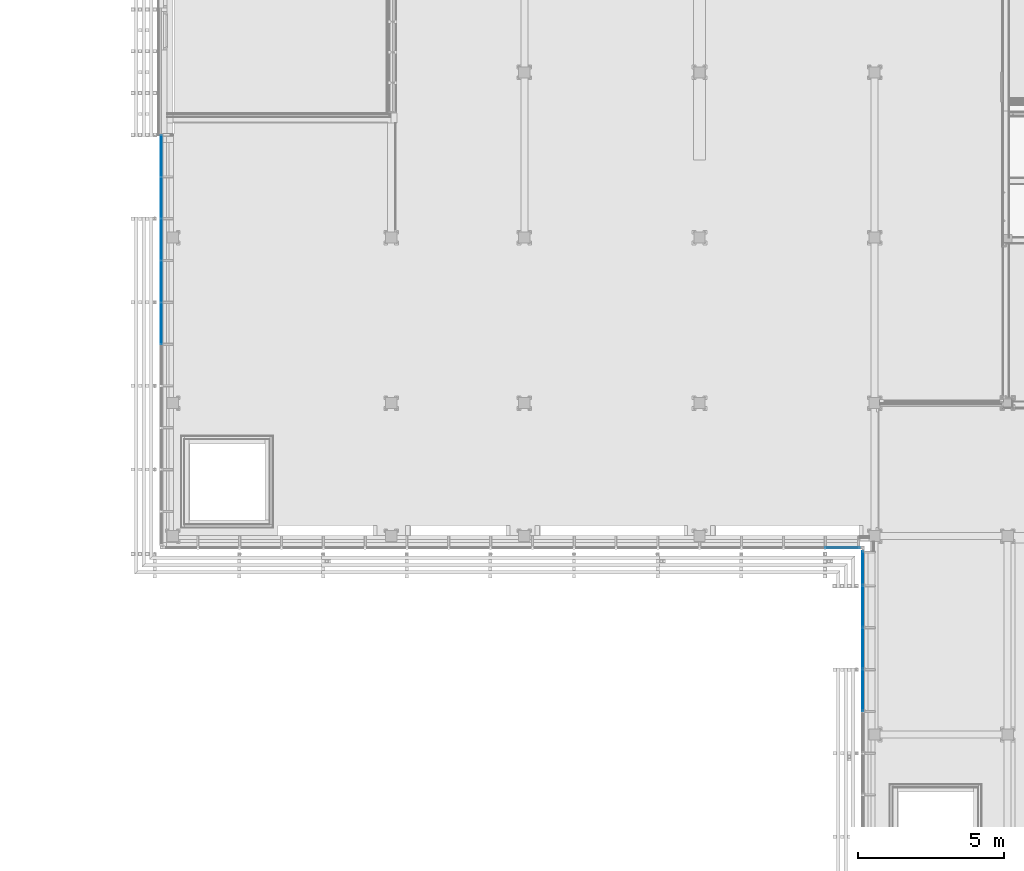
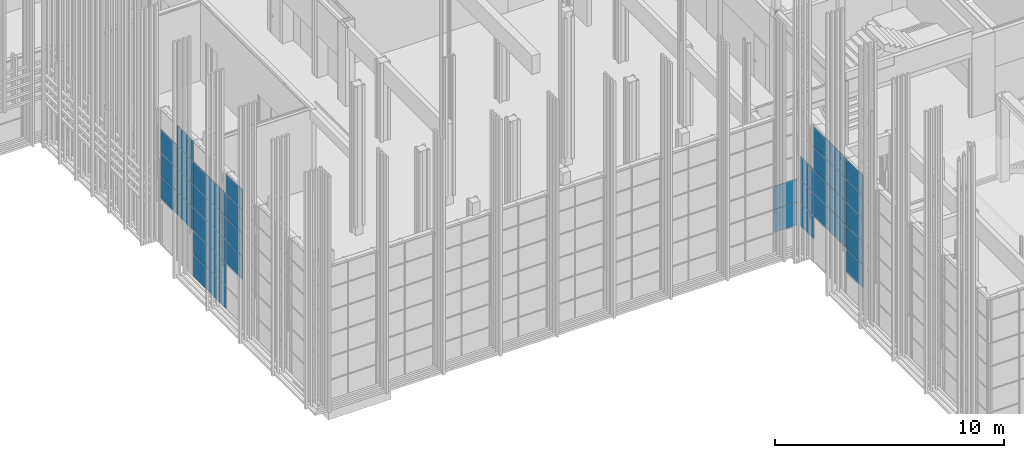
# One storey, part 54 of 260: 39 plates, 1 element without a shape of its own.
"""IFC2X3 building model written with IfcOpenShell, lengths in millimetres."""

from ifc_helpers import new_model, entity, si_unit, converted_unit, derived_unit, money_unit, direction, frame, origin_with_axes, place, context, subcontext, project, spatial, faceted_brep, source, transform, mapped, material, type_object, element, aggregate, save


model = new_model("IFC2X3")

# Units and contexts
model_context = context("Model", 3, precision=0.01, world=origin_with_axes(), true_north=direction((0.0, 1.0)))
body_context = subcontext(model_context, "Body", "Model", "MODEL_VIEW")
ifc_project = project(units=[si_unit("LENGTHUNIT", "METRE", prefix="MILLI"), si_unit("AREAUNIT", "SQUARE_METRE"), si_unit("VOLUMEUNIT", "CUBIC_METRE"), converted_unit("PLANEANGLEUNIT", "DEGREE", entity("IfcPlaneAngleMeasure", 0.0174532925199), si_unit("PLANEANGLEUNIT", "RADIAN"), dimensions=[0, 0, 0, 0, 0, 0, 0]), money_unit("EUR"), converted_unit("TIMEUNIT", "Year", entity("IfcTimeMeasure", 31556926.0), si_unit("TIMEUNIT", "SECOND"), dimensions=[0, 0, 1, 0, 0, 0, 0]), si_unit("MASSUNIT", "GRAM", prefix="KILO"), si_unit("THERMODYNAMICTEMPERATUREUNIT", "DEGREE_CELSIUS"), si_unit("LUMINOUSINTENSITYUNIT", "LUMEN"), si_unit("ENERGYUNIT", "JOULE", prefix="MEGA"), derived_unit("THERMALCONDUCTANCEUNIT", [(si_unit("POWERUNIT", "WATT"), 1), (si_unit("LENGTHUNIT", "METRE"), -1), (si_unit("THERMODYNAMICTEMPERATUREUNIT", "KELVIN"), -1)]), derived_unit("SPECIFICHEATCAPACITYUNIT", [(si_unit("ENERGYUNIT", "JOULE"), 1), (si_unit("MASSUNIT", "GRAM", prefix="KILO"), -1), (si_unit("THERMODYNAMICTEMPERATUREUNIT", "KELVIN"), -1)]), derived_unit("MASSDENSITYUNIT", [(si_unit("MASSUNIT", "GRAM", prefix="KILO"), 1), (si_unit("VOLUMEUNIT", "CUBIC_METRE"), -1)])], contexts=[model_context])

# Site, building, storey
site_placement = place(None, origin_with_axes())
site = spatial("IfcSite", under=ifc_project, at=site_placement, Name="Kolde pst 67a", CompositionType="ELEMENT")
building_placement = place(site_placement, origin_with_axes())
building = spatial("IfcBuilding", under=site, at=building_placement, Name="Riigigümnaasium", CompositionType="ELEMENT")
storey_placement = place(building_placement, origin_with_axes())
storey = spatial("IfcBuildingStorey", under=building, at=storey_placement, Name="1. korrus", CompositionType="ELEMENT", Elevation=0.0)

# Curtain wall, plates
curtain_wall_type = type_object("IfcCurtainWallType", Name="Curtain Wall Type", PredefinedType="NOTDEFINED")
curtain_wall_placement = place(storey_placement, frame((47829.9854655, 8727.77020058, -0.000749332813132), z_axis=(0.0, 0.0, 1.0), x_axis=(1.0, 0.0, 0.0)))
curtain_wall = element("IfcCurtainWall", 1, at=curtain_wall_placement, inside=storey, type_object=curtain_wall_type, Name="KLAASFASSAAD")
ifc_material = material(Name="_KLAAS - kirgas")
plate_type_1 = type_object("IfcPlateType", Name="Main Panel 72 x 1220 x 33", PredefinedType="NOTDEFINED")
shared_shape_1 = source(origin_with_axes(), body_context, "Body", "Brep", [
    faceted_brep([(-2777.75198662, 1225.00000656, -16.5), (-2777.75198662, 1225.00000656, 16.5), (-1430.0, 1225.00000656, 16.5), (-1430.0, 1225.00000656, -16.5), (-2777.75198662, 4.99999672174, -16.5), (-2777.75198662, 4.99999672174, 16.5), (-1430.0, 4.99999672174, 16.5), (-1357.75198007, 4.99999672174, 16.5), (-1357.75198007, 1225.00000656, 16.5), (-1357.75198007, 1225.00000656, -16.5), (-1357.75198007, 4.99999672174, -16.5), (-1430.0, 4.99999672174, -16.5)], [[[0, 1, 2, 3]], [[4, 5, 1, 0]], [[1, 5, 6, 7, 8, 2]], [[3, 2, 8, 9]], [[0, 3, 9, 10, 11, 4]], [[11, 6, 5, 4]], [[10, 7, 6, 11]], [[9, 8, 7, 10]]]),
])
plate_1_placement = place(curtain_wall_placement, frame((-9.12638142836e-06, 10011.2070736, 1845.00074933), z_axis=(0.0, 0.0, 1.0), x_axis=(9.11611423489e-10, -1.0, 0.0)))
plate_1 = element("IfcPlate", 2, at=plate_1_placement, type_object=plate_type_1, material=ifc_material, Name="RF PANEEL PEAMINE-010", context=body_context, shape_type="MappedRepresentation", body=[
    mapped(shared_shape_1, transform((1855.1679889, 0.0, -615.0), x_axis=(1.0, 0.0, 0.0), y_axis=(0.0, 0.0, 1.0), z_axis=(0.0, -1.0, 0.0))),
])
plate_2_placement = place(curtain_wall_placement, frame((-9.12638142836e-06, 10011.2070736, 3075.00074933), z_axis=(0.0, 0.0, 1.0), x_axis=(9.11611423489e-10, -1.0, 0.0)))
plate_2 = element("IfcPlate", 3, at=plate_2_placement, type_object=plate_type_1, material=ifc_material, Name="RF PANEEL PEAMINE-010", context=body_context, shape_type="MappedRepresentation", body=[
    mapped(shared_shape_1, transform((1855.1679889, 0.0, -615.0), x_axis=(1.0, 0.0, 0.0), y_axis=(0.0, 0.0, 1.0), z_axis=(0.0, -1.0, 0.0))),
])
plate_3_placement = place(curtain_wall_placement, frame((-9.12638142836e-06, 10011.2070736, 5535.00074933), z_axis=(0.0, 0.0, 1.0), x_axis=(9.11611423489e-10, -1.0, 0.0)))
plate_3 = element("IfcPlate", 4, at=plate_3_placement, type_object=plate_type_1, material=ifc_material, Name="RF PANEEL PEAMINE-059", context=body_context, shape_type="MappedRepresentation", body=[
    mapped(shared_shape_1, transform((1855.1679889, 0.0, -615.0), x_axis=(1.0, 0.0, 0.0), y_axis=(0.0, 0.0, 1.0), z_axis=(0.0, -1.0, 0.0))),
])
plate_4_placement = place(curtain_wall_placement, frame((-9.12638142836e-06, 10011.2070736, 4305.00074933), z_axis=(0.0, 0.0, 1.0), x_axis=(9.11611423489e-10, -1.0, 0.0)))
plate_4 = element("IfcPlate", 5, at=plate_4_placement, type_object=plate_type_1, material=ifc_material, Name="RF PANEEL PEAMINE-040", context=body_context, shape_type="MappedRepresentation", body=[
    mapped(shared_shape_1, transform((1855.1679889, 0.0, -615.0), x_axis=(1.0, 0.0, 0.0), y_axis=(0.0, 0.0, 1.0), z_axis=(0.0, -1.0, 0.0))),
])
shared_shape_2 = source(origin_with_axes(), body_context, "Body", "Brep", [
    faceted_brep([(-2777.75197336, 1224.99999549, -16.5), (-2777.75197336, 1224.99999549, 16.5), (-1429.999994, 1224.99999549, 16.5), (-1429.999994, 1224.99999549, -16.5), (-2777.75197336, 5.00000998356, -16.5), (-2777.75197336, 5.00000998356, 16.5), (-1429.999994, 5.00000998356, 16.5), (-1357.76038895, 5.00000998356, 16.5), (-1357.76038895, 1224.99999549, 16.5), (-1357.76038895, 1224.99999549, -16.5), (-1357.76038895, 5.00000998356, -16.5), (-1429.999994, 5.00000998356, -16.5)], [[[0, 1, 2, 3]], [[4, 5, 1, 0]], [[1, 5, 6, 7, 8, 2]], [[3, 2, 8, 9]], [[0, 3, 9, 10, 11, 4]], [[11, 6, 5, 4]], [[10, 7, 6, 11]], [[9, 8, 7, 10]]]),
])
plate_5_placement = place(curtain_wall_placement, frame((-1.1733597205e-05, 12871.2098792, 3075.00074933), z_axis=(0.0, 0.0, 1.0), x_axis=(9.1161639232e-10, -1.0, 0.0)))
plate_5 = element("IfcPlate", 6, at=plate_5_placement, type_object=plate_type_1, material=ifc_material, Name="RF PANEEL PEAMINE-010", context=body_context, shape_type="MappedRepresentation", body=[
    mapped(shared_shape_2, transform((1855.17079454, 0.0, -615.0), x_axis=(1.0, 0.0, 0.0), y_axis=(0.0, 0.0, 1.0), z_axis=(0.0, -1.0, 0.0))),
])
plate_6_placement = place(curtain_wall_placement, frame((-1.1733597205e-05, 12871.2098757, 5535.00074933), z_axis=(0.0, 0.0, 1.0), x_axis=(9.1161639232e-10, -1.0, 0.0)))
plate_6 = element("IfcPlate", 7, at=plate_6_placement, type_object=plate_type_1, material=ifc_material, Name="RF PANEEL PEAMINE-063", context=body_context, shape_type="MappedRepresentation", body=[
    mapped(shared_shape_2, transform((1855.17079099, 0.0, -615.0), x_axis=(1.0, 0.0, 0.0), y_axis=(0.0, 0.0, 1.0), z_axis=(0.0, -1.0, 0.0))),
])
plate_7_placement = place(curtain_wall_placement, frame((-1.1733597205e-05, 12871.2098792, 4305.00074933), z_axis=(0.0, 0.0, 1.0), x_axis=(9.1161639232e-10, -1.0, 0.0)))
plate_7 = element("IfcPlate", 8, at=plate_7_placement, type_object=plate_type_1, material=ifc_material, Name="RF PANEEL PEAMINE-042", context=body_context, shape_type="MappedRepresentation", body=[
    mapped(shared_shape_2, transform((1855.17079454, 0.0, -615.0), x_axis=(1.0, 0.0, 0.0), y_axis=(0.0, 0.0, 1.0), z_axis=(0.0, -1.0, 0.0))),
])
shared_shape_3 = source(origin_with_axes(), body_context, "Body", "Brep", [
    faceted_brep([(-2777.76037427, 1224.99999929, -16.5), (-2777.76037427, 1224.99999929, 16.5), (-1430.00000489, 1224.99999929, 16.5), (-1430.00000489, 1224.99999929, -16.5), (-2777.76037427, 5.00000469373, -16.5), (-2777.76037427, 5.00000469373, 16.5), (-1430.00000489, 5.00000469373, 16.5), (-1357.75200935, 5.00000469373, 16.5), (-1357.75200935, 1224.99999929, 16.5), (-1357.75200935, 1224.99999929, -16.5), (-1357.75200935, 5.00000469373, -16.5), (-1430.00000489, 5.00000469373, -16.5)], [[[0, 1, 2, 3]], [[4, 5, 1, 0]], [[1, 5, 6, 7, 8, 2]], [[3, 2, 8, 9]], [[0, 3, 9, 10, 11, 4]], [[11, 6, 5, 4]], [[10, 7, 6, 11]], [[9, 8, 7, 10]]]),
])
plate_8_placement = place(curtain_wall_placement, frame((-1.04299928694e-05, 11441.2098721, 4305.00074933), z_axis=(0.0, 0.0, 1.0), x_axis=(9.1161639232e-10, -1.0, 0.0)))
plate_8 = element("IfcPlate", 9, at=plate_8_placement, type_object=plate_type_1, material=ifc_material, Name="RF PANEEL PEAMINE-041", context=body_context, shape_type="MappedRepresentation", body=[
    mapped(shared_shape_3, transform((1855.17078744, 0.0, -615.0), x_axis=(1.0, 0.0, 0.0), y_axis=(0.0, 0.0, 1.0), z_axis=(0.0, -1.0, 0.0))),
])
plate_9_placement = place(curtain_wall_placement, frame((-1.04299928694e-05, 11441.2098721, 3075.00074933), z_axis=(0.0, 0.0, 1.0), x_axis=(9.1161639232e-10, -1.0, 0.0)))
plate_9 = element("IfcPlate", 10, at=plate_9_placement, type_object=plate_type_1, material=ifc_material, Name="RF PANEEL PEAMINE-010", context=body_context, shape_type="MappedRepresentation", body=[
    mapped(shared_shape_3, transform((1855.17078744, 0.0, -615.0), x_axis=(1.0, 0.0, 0.0), y_axis=(0.0, 0.0, 1.0), z_axis=(0.0, -1.0, 0.0))),
])
plate_10_placement = place(curtain_wall_placement, frame((-1.04299928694e-05, 11441.2098721, 5535.00074933), z_axis=(0.0, 0.0, 1.0), x_axis=(9.1161639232e-10, -1.0, 0.0)))
plate_10 = element("IfcPlate", 11, at=plate_10_placement, type_object=plate_type_1, material=ifc_material, Name="RF PANEEL PEAMINE-061", context=body_context, shape_type="MappedRepresentation", body=[
    mapped(shared_shape_3, transform((1855.17078744, 0.0, -615.0), x_axis=(1.0, 0.0, 0.0), y_axis=(0.0, 0.0, 1.0), z_axis=(0.0, -1.0, 0.0))),
])
plate_type_2 = type_object("IfcPlateType", Name="Main Panel 72 x 1075 x 33", PredefinedType="NOTDEFINED")
shared_shape_4 = source(origin_with_axes(), body_context, "Body", "Brep", [
    faceted_brep([(-2777.76038635, 1079.99918528, -16.5), (-2777.76038635, 1079.99918528, 16.5), (-1430.0000067, 1079.99918528, 16.5), (-1430.0000067, 1079.99918528, -16.5), (-2777.76038635, 5.00000481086, -16.5), (-2777.76038635, 5.00000481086, 16.5), (-1430.0000067, 5.00000481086, 16.5), (-1357.75198816, 5.00000481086, 16.5), (-1357.75198816, 1079.99918528, 16.5), (-1357.75198816, 1079.99918528, -16.5), (-1357.75198816, 5.00000481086, -16.5), (-1430.0000067, 5.00000481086, -16.5)], [[[0, 1, 2, 3]], [[4, 5, 1, 0]], [[1, 5, 6, 7, 8, 2]], [[3, 2, 8, 9]], [[0, 3, 9, 10, 11, 4]], [[11, 6, 5, 4]], [[10, 7, 6, 11]], [[9, 8, 7, 10]]]),
])
plate_11_placement = place(curtain_wall_placement, frame((-1.04784447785e-05, 11494.3562233, 6841.25023072), z_axis=(0.0, 0.0, 1.0), x_axis=(9.1161639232e-10, -1.0, 0.0)))
plate_11 = element("IfcPlate", 12, at=plate_11_placement, type_object=plate_type_2, material=ifc_material, Name="RF PANEEL PEAMINE-030", context=body_context, shape_type="MappedRepresentation", body=[
    mapped(shared_shape_4, transform((1908.31713865, 0.0, -691.249481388), x_axis=(1.0, 0.0, 0.0), y_axis=(0.0, 0.0, 1.0), z_axis=(0.0, -1.0, 0.0))),
])
shared_shape_5 = source(origin_with_axes(), body_context, "Body", "Brep", [
    faceted_brep([(-2546.19129792, 1225.00000562, -16.5), (-2546.19129792, 1225.00000562, 16.5), (-1430.00000402, 1225.00000562, 16.5), (-1430.00000402, 1225.00000562, -16.5), (-2546.19129792, 5.00000565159, -16.5), (-2546.19129792, 5.00000565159, 16.5), (-1430.00000402, 5.00000565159, 16.5), (-1357.75201031, 5.00000565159, 16.5), (-1357.75201031, 1225.00000562, 16.5), (-1357.75201031, 1225.00000562, -16.5), (-1357.75201031, 5.00000565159, -16.5), (-1430.00000402, 5.00000565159, -16.5)], [[[0, 1, 2, 3]], [[4, 5, 1, 0]], [[1, 5, 6, 7, 8, 2]], [[3, 2, 8, 9]], [[0, 3, 9, 10, 11, 4]], [[11, 6, 5, 4]], [[10, 7, 6, 11]], [[9, 8, 7, 10]]]),
])
plate_12_placement = place(curtain_wall_placement, frame((-1.29987469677e-05, 14259.0200396, 4305.00074933), z_axis=(0.0, 0.0, 1.0), x_axis=(9.1161639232e-10, -1.0, 0.0)))
plate_12 = element("IfcPlate", 13, at=plate_12_placement, type_object=plate_type_1, material=ifc_material, Name="RF PANEEL PEAMINE-045", context=body_context, shape_type="MappedRepresentation", body=[
    mapped(shared_shape_5, transform((1812.98095492, 0.0, -615.0), x_axis=(1.0, 0.0, 0.0), y_axis=(0.0, 0.0, 1.0), z_axis=(0.0, -1.0, 0.0))),
])
plate_13_placement = place(curtain_wall_placement, frame((-1.29987469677e-05, 14259.0200396, 3075.00074933), z_axis=(0.0, 0.0, 1.0), x_axis=(9.1161639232e-10, -1.0, 0.0)))
plate_13 = element("IfcPlate", 14, at=plate_13_placement, type_object=plate_type_1, material=ifc_material, Name="RF PANEEL PEAMINE-010", context=body_context, shape_type="MappedRepresentation", body=[
    mapped(shared_shape_5, transform((1812.98095492, 0.0, -615.0), x_axis=(1.0, 0.0, 0.0), y_axis=(0.0, 0.0, 1.0), z_axis=(0.0, -1.0, 0.0))),
])
plate_14_placement = place(curtain_wall_placement, frame((-1.29987469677e-05, 14259.0200396, 1845.00074933), z_axis=(0.0, 0.0, 1.0), x_axis=(9.1161639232e-10, -1.0, 0.0)))
plate_14 = element("IfcPlate", 15, at=plate_14_placement, type_object=plate_type_1, material=ifc_material, Name="RF PANEEL PEAMINE-010", context=body_context, shape_type="MappedRepresentation", body=[
    mapped(shared_shape_5, transform((1812.98095492, 0.0, -615.0), x_axis=(1.0, 0.0, 0.0), y_axis=(0.0, 0.0, 1.0), z_axis=(0.0, -1.0, 0.0))),
])
plate_type_3 = type_object("IfcPlateType", Name="Main Panel 1177 x 1220 x 33", PredefinedType="NOTDEFINED")
shared_shape_6 = source(origin_with_axes(), body_context, "Body", "Brep", [
    faceted_brep([(-1287.41504236, 1225.00000474, -16.5), (-1287.41504236, 1225.00000474, 16.5), (-110.00000695, 1225.00000474, 16.5), (-110.00000695, 1225.00000474, -16.5), (-1287.41504236, 5.00000819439, -16.5), (-1287.41504236, 5.00000819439, 16.5), (-110.00000695, 5.00000819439, 16.5), (-110.00000695, 5.00000819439, -16.5)], [[[0, 1, 2, 3]], [[4, 5, 1, 0]], [[1, 5, 6, 2]], [[3, 2, 6, 7]], [[0, 3, 7, 4]], [[7, 6, 5, 4]]]),
])
plate_15_placement = place(curtain_wall_placement, frame((-646.207539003, 15102.2373185, 1845.00074933), z_axis=(0.0, 0.0, 1.0), x_axis=(0.999999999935, -1.14108152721e-05, 0.0)))
plate_15 = element("IfcPlate", 16, at=plate_15_placement, type_object=plate_type_3, material=ifc_material, Name="RF PANEEL PEAMINE-073", context=body_context, shape_type="MappedRepresentation", body=[
    mapped(shared_shape_6, transform((646.207525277, 0.0, -615.0), x_axis=(1.0, 0.0, 0.0), y_axis=(0.0, 0.0, 1.0), z_axis=(0.0, -1.0, 0.0))),
])
plate_16_placement = place(curtain_wall_placement, frame((-646.207539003, 15102.2373185, 3075.00074933), z_axis=(0.0, 0.0, 1.0), x_axis=(0.999999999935, -1.14108152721e-05, 0.0)))
plate_16 = element("IfcPlate", 17, at=plate_16_placement, type_object=plate_type_3, material=ifc_material, Name="RF PANEEL PEAMINE-075", context=body_context, shape_type="MappedRepresentation", body=[
    mapped(shared_shape_6, transform((646.207525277, 0.0, -615.0), x_axis=(1.0, 0.0, 0.0), y_axis=(0.0, 0.0, 1.0), z_axis=(0.0, -1.0, 0.0))),
])
plate_type_4 = type_object("IfcPlateType", Name="Main Panel 915 x 1220 x 33", PredefinedType="NOTDEFINED")
shared_shape_7 = source(origin_with_axes(), body_context, "Body", "Brep", [
    faceted_brep([(-1935.00000983, 1225.00000656, -16.5), (-1935.00000983, 1225.00000656, 16.5), (-1430.0, 1225.00000656, 16.5), (-1430.0, 1225.00000656, -16.5), (-1935.00000983, 4.99999672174, -16.5), (-1935.00000983, 4.99999672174, 16.5), (-1430.0, 4.99999672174, 16.5), (-515.000003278, 4.99999672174, 16.5), (-515.000003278, 1225.00000656, 16.5), (-515.000003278, 1225.00000656, -16.5), (-515.000003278, 4.99999672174, -16.5), (-1430.0, 4.99999672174, -16.5)], [[[0, 1, 2, 3]], [[4, 5, 1, 0]], [[1, 5, 6, 7, 8, 2]], [[3, 2, 8, 9]], [[0, 3, 9, 10, 11, 4]], [[11, 6, 5, 4]], [[10, 7, 6, 11]], [[9, 8, 7, 10]]]),
])
plate_17_placement = place(curtain_wall_placement, frame((-23999.9248992, 22850.607552, 3075.00074933), z_axis=(0.0, 0.0, 1.0), x_axis=(-7.64768489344e-06, -0.999999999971, 0.0)))
plate_17 = element("IfcPlate", 18, at=plate_17_placement, type_object=plate_type_4, material=ifc_material, Name="RF PANEEL PEAMINE-216", context=body_context, shape_type="MappedRepresentation", body=[
    mapped(shared_shape_7, transform((1293.3333377, 0.0, -615.0), x_axis=(1.0, 0.0, 0.0), y_axis=(0.0, 0.0, 1.0), z_axis=(0.0, -1.0, 0.0))),
])
plate_18_placement = place(curtain_wall_placement, frame((-23999.9248992, 22850.6075522, 5535.00074933), z_axis=(0.0, 0.0, 1.0), x_axis=(-7.64768489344e-06, -0.999999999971, 0.0)))
plate_18 = element("IfcPlate", 19, at=plate_18_placement, type_object=plate_type_4, material=ifc_material, Name="RF PANEEL PEAMINE-218", context=body_context, shape_type="MappedRepresentation", body=[
    mapped(shared_shape_7, transform((1293.33333791, 0.0, -615.0), x_axis=(1.0, 0.0, 0.0), y_axis=(0.0, 0.0, 1.0), z_axis=(0.0, -1.0, 0.0))),
])
plate_19_placement = place(curtain_wall_placement, frame((-23999.913963, 24280.607552, 3075.00074933), z_axis=(0.0, 0.0, 1.0), x_axis=(-7.64768489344e-06, -0.999999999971, 0.0)))
plate_19 = element("IfcPlate", 20, at=plate_19_placement, type_object=plate_type_4, material=ifc_material, Name="RF PANEEL PEAMINE-222", context=body_context, shape_type="MappedRepresentation", body=[
    mapped(shared_shape_7, transform((1293.3333377, 0.0, -615.0), x_axis=(1.0, 0.0, 0.0), y_axis=(0.0, 0.0, 1.0), z_axis=(0.0, -1.0, 0.0))),
])
plate_20_placement = place(curtain_wall_placement, frame((-23999.913963, 24280.6075514, 5535.00074933), z_axis=(0.0, 0.0, 1.0), x_axis=(-7.64768489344e-06, -0.999999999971, 0.0)))
plate_20 = element("IfcPlate", 21, at=plate_20_placement, type_object=plate_type_4, material=ifc_material, Name="RF PANEEL PEAMINE-224", context=body_context, shape_type="MappedRepresentation", body=[
    mapped(shared_shape_7, transform((1293.33333713, 0.0, -615.0), x_axis=(1.0, 0.0, 0.0), y_axis=(0.0, 0.0, 1.0), z_axis=(0.0, -1.0, 0.0))),
])
plate_21_placement = place(curtain_wall_placement, frame((-23999.9030268, 25710.607552, 1845.00074933), z_axis=(0.0, 0.0, 1.0), x_axis=(-7.64768489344e-06, -0.999999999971, 0.0)))
plate_21 = element("IfcPlate", 22, at=plate_21_placement, type_object=plate_type_4, material=ifc_material, Name="RF PANEEL PEAMINE-227", context=body_context, shape_type="MappedRepresentation", body=[
    mapped(shared_shape_7, transform((1293.3333377, 0.0, -615.0), x_axis=(1.0, 0.0, 0.0), y_axis=(0.0, 0.0, 1.0), z_axis=(0.0, -1.0, 0.0))),
])
plate_22_placement = place(curtain_wall_placement, frame((-23999.9030268, 25710.6075487, 5535.00074933), z_axis=(0.0, 0.0, 1.0), x_axis=(-7.64768489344e-06, -0.999999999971, 0.0)))
plate_22 = element("IfcPlate", 23, at=plate_22_placement, type_object=plate_type_4, material=ifc_material, Name="RF PANEEL PEAMINE-230", context=body_context, shape_type="MappedRepresentation", body=[
    mapped(shared_shape_7, transform((1293.33333447, 0.0, -615.0), x_axis=(1.0, 0.0, 0.0), y_axis=(0.0, 0.0, 1.0), z_axis=(0.0, -1.0, 0.0))),
])
plate_23_placement = place(curtain_wall_placement, frame((-23999.8920906, 27140.6075483, 5535.00074933), z_axis=(0.0, 0.0, 1.0), x_axis=(-7.64768489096e-06, -0.999999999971, 0.0)))
plate_23 = element("IfcPlate", 24, at=plate_23_placement, type_object=plate_type_4, material=ifc_material, Name="RF PANEEL PEAMINE-236", context=body_context, shape_type="MappedRepresentation", body=[
    mapped(shared_shape_7, transform((1293.33333405, 0.0, -615.0), x_axis=(1.0, 0.0, 0.0), y_axis=(0.0, 0.0, 1.0), z_axis=(0.0, -1.0, 0.0))),
])
shared_shape_8 = source(origin_with_axes(), body_context, "Body", "Brep", [
    faceted_brep([(-1935.00000983, 1225.00000656, -16.5), (-1935.00000983, 1225.00000656, 16.5), (-1430.0, 1225.00000656, 16.5), (-1430.0, 1225.00000656, -16.5), (-1935.00000983, 4.99999672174, -16.5), (-1935.00000983, 4.99999672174, 16.5), (-1430.0, 4.99999672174, 16.5), (-515.000003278, 4.99999672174, 16.5), (-515.000003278, 1225.00000656, 16.5), (-515.000003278, 1225.00000656, -16.5), (-515.000003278, 4.99999672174, -16.5), (-1430.0, 4.99999672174, -16.5)], [[[0, 1, 2, 3]], [[4, 5, 1, 0]], [[1, 5, 6, 7, 8, 2]], [[3, 2, 8, 9]], [[0, 3, 9, 10, 11, 4]], [[11, 6, 5, 4]], [[10, 7, 6, 11]], [[9, 8, 7, 10]]]),
])
plate_24_placement = place(curtain_wall_placement, frame((-23999.9248992, 22850.607552, 4305.00074933), z_axis=(0.0, 0.0, 1.0), x_axis=(-7.64768489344e-06, -0.999999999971, 0.0)))
plate_24 = element("IfcPlate", 25, at=plate_24_placement, type_object=plate_type_4, material=ifc_material, Name="RF PANEEL PEAMINE-217", context=body_context, shape_type="MappedRepresentation", body=[
    mapped(shared_shape_8, transform((1293.3333377, 0.0, -615.0), x_axis=(1.0, 0.0, 0.0), y_axis=(0.0, 0.0, 1.0), z_axis=(0.0, -1.0, 0.0))),
])
plate_25_placement = place(curtain_wall_placement, frame((-23999.913963, 24280.607552, 4305.00074933), z_axis=(0.0, 0.0, 1.0), x_axis=(-7.64768489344e-06, -0.999999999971, 0.0)))
plate_25 = element("IfcPlate", 26, at=plate_25_placement, type_object=plate_type_4, material=ifc_material, Name="RF PANEEL PEAMINE-223", context=body_context, shape_type="MappedRepresentation", body=[
    mapped(shared_shape_8, transform((1293.3333377, 0.0, -615.0), x_axis=(1.0, 0.0, 0.0), y_axis=(0.0, 0.0, 1.0), z_axis=(0.0, -1.0, 0.0))),
])
plate_26_placement = place(curtain_wall_placement, frame((-23999.9030268, 25710.607552, 3075.00074933), z_axis=(0.0, 0.0, 1.0), x_axis=(-7.64768489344e-06, -0.999999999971, 0.0)))
plate_26 = element("IfcPlate", 27, at=plate_26_placement, type_object=plate_type_4, material=ifc_material, Name="RF PANEEL PEAMINE-228", context=body_context, shape_type="MappedRepresentation", body=[
    mapped(shared_shape_8, transform((1293.3333377, 0.0, -615.0), x_axis=(1.0, 0.0, 0.0), y_axis=(0.0, 0.0, 1.0), z_axis=(0.0, -1.0, 0.0))),
])
plate_27_placement = place(curtain_wall_placement, frame((-23999.9030268, 25710.607552, 4305.00074933), z_axis=(0.0, 0.0, 1.0), x_axis=(-7.64768489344e-06, -0.999999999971, 0.0)))
plate_27 = element("IfcPlate", 28, at=plate_27_placement, type_object=plate_type_4, material=ifc_material, Name="RF PANEEL PEAMINE-229", context=body_context, shape_type="MappedRepresentation", body=[
    mapped(shared_shape_8, transform((1293.3333377, 0.0, -615.0), x_axis=(1.0, 0.0, 0.0), y_axis=(0.0, 0.0, 1.0), z_axis=(0.0, -1.0, 0.0))),
])
plate_28_placement = place(curtain_wall_placement, frame((-23999.8920906, 27140.6075519, 3075.00074933), z_axis=(0.0, 0.0, 1.0), x_axis=(-7.64768489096e-06, -0.999999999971, 0.0)))
plate_28 = element("IfcPlate", 29, at=plate_28_placement, type_object=plate_type_4, material=ifc_material, Name="RF PANEEL PEAMINE-234", context=body_context, shape_type="MappedRepresentation", body=[
    mapped(shared_shape_8, transform((1293.3333377, 0.0, -615.0), x_axis=(1.0, 0.0, 0.0), y_axis=(0.0, 0.0, 1.0), z_axis=(0.0, -1.0, 0.0))),
])
plate_29_placement = place(curtain_wall_placement, frame((-23999.8920906, 27140.6075519, 4305.00074933), z_axis=(0.0, 0.0, 1.0), x_axis=(-7.64768489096e-06, -0.999999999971, 0.0)))
plate_29 = element("IfcPlate", 30, at=plate_29_placement, type_object=plate_type_4, material=ifc_material, Name="RF PANEEL PEAMINE-235", context=body_context, shape_type="MappedRepresentation", body=[
    mapped(shared_shape_8, transform((1293.3333377, 0.0, -615.0), x_axis=(1.0, 0.0, 0.0), y_axis=(0.0, 0.0, 1.0), z_axis=(0.0, -1.0, 0.0))),
])
plate_30_placement = place(curtain_wall_placement, frame((-23999.913963, 24280.607552, 1845.00074933), z_axis=(0.0, 0.0, 1.0), x_axis=(-7.64768489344e-06, -0.999999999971, 0.0)))
plate_30 = element("IfcPlate", 31, at=plate_30_placement, type_object=plate_type_4, material=ifc_material, Name="RF PANEEL PEAMINE-221", context=body_context, shape_type="MappedRepresentation", body=[
    mapped(shared_shape_8, transform((1293.3333377, 0.0, -615.0), x_axis=(1.0, 0.0, 0.0), y_axis=(0.0, 0.0, 1.0), z_axis=(0.0, -1.0, 0.0))),
])
shared_shape_9 = source(origin_with_axes(), body_context, "Body", "Brep", [
    faceted_brep([(-1935.4537083, 1225.00000724, -16.5), (-1935.4537083, 1225.00000724, 16.5), (-1429.99999819, 1225.00000724, 16.5), (-1429.99999819, 1225.00000724, -16.5), (-1935.4537083, 5.00000985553, -16.5), (-1935.4537083, 5.00000985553, 16.5), (-1429.99999819, 5.00000985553, 16.5), (-515.000016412, 5.00000985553, 16.5), (-515.000016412, 1225.00000724, 16.5), (-515.000016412, 1225.00000724, -16.5), (-515.000016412, 5.00000985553, -16.5), (-1429.99999819, 5.00000985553, -16.5)], [[[0, 1, 2, 3]], [[4, 5, 1, 0]], [[1, 5, 6, 7, 8, 2]], [[3, 2, 8, 9]], [[0, 3, 9, 10, 11, 4]], [[11, 6, 5, 4]], [[10, 7, 6, 11]], [[9, 8, 7, 10]]]),
])
plate_31_placement = place(curtain_wall_placement, frame((-23999.8810895, 28579.0921171, 3075.00074933), z_axis=(0.0, 0.0, 1.0), x_axis=(-7.64768489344e-06, -0.999999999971, 0.0)))
plate_31 = element("IfcPlate", 32, at=plate_31_placement, type_object=plate_type_4, material=ifc_material, Name="RF PANEEL PEAMINE-240", context=body_context, shape_type="MappedRepresentation", body=[
    mapped(shared_shape_9, transform((1301.81790297, 0.0, -615.0), x_axis=(1.0, 0.0, 0.0), y_axis=(0.0, 0.0, 1.0), z_axis=(0.0, -1.0, 0.0))),
])
plate_32_placement = place(curtain_wall_placement, frame((-23999.8810895, 28579.0921171, 4305.00074933), z_axis=(0.0, 0.0, 1.0), x_axis=(-7.64768489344e-06, -0.999999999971, 0.0)))
plate_32 = element("IfcPlate", 33, at=plate_32_placement, type_object=plate_type_4, material=ifc_material, Name="RF PANEEL PEAMINE-241", context=body_context, shape_type="MappedRepresentation", body=[
    mapped(shared_shape_9, transform((1301.81790297, 0.0, -615.0), x_axis=(1.0, 0.0, 0.0), y_axis=(0.0, 0.0, 1.0), z_axis=(0.0, -1.0, 0.0))),
])
plate_33_placement = place(curtain_wall_placement, frame((-23999.8810895, 28579.0921162, 5535.00074933), z_axis=(0.0, 0.0, 1.0), x_axis=(-7.64768489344e-06, -0.999999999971, 0.0)))
plate_33 = element("IfcPlate", 34, at=plate_33_placement, type_object=plate_type_4, material=ifc_material, Name="RF PANEEL PEAMINE-242", context=body_context, shape_type="MappedRepresentation", body=[
    mapped(shared_shape_9, transform((1301.81790207, 0.0, -615.0), x_axis=(1.0, 0.0, 0.0), y_axis=(0.0, 0.0, 1.0), z_axis=(0.0, -1.0, 0.0))),
])
plate_type_5 = type_object("IfcPlateType", Name="Main Panel 915 x 1075 x 33", PredefinedType="NOTDEFINED")
shared_shape_10 = source(origin_with_axes(), body_context, "Body", "Brep", [
    faceted_brep([(-1934.99999498, 1079.99888527, -16.5), (-1934.99999498, 1079.99888527, 16.5), (-1430.00000728, 1079.99888527, 16.5), (-1430.00000728, 1079.99888527, -16.5), (-1934.99999498, 4.99999671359, -16.5), (-1934.99999498, 4.99999671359, 16.5), (-1430.00000728, 4.99999671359, 16.5), (-514.999990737, 4.99999671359, 16.5), (-514.999990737, 1079.99888527, 16.5), (-514.999990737, 1079.99888527, -16.5), (-514.999990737, 4.99999671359, -16.5), (-1430.00000728, 4.99999671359, -16.5)], [[[0, 1, 2, 3]], [[4, 5, 1, 0]], [[1, 5, 6, 7, 8, 2]], [[3, 2, 8, 9]], [[0, 3, 9, 10, 11, 4]], [[11, 6, 5, 4]], [[10, 7, 6, 11]], [[9, 8, 7, 10]]]),
])
plate_34_placement = place(curtain_wall_placement, frame((-23999.9250298, 22833.5242197, 6841.25008067), z_axis=(0.0, 0.0, 1.0), x_axis=(-7.64768489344e-06, -0.999999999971, 0.0)))
plate_34 = element("IfcPlate", 35, at=plate_34_placement, type_object=plate_type_5, material=ifc_material, Name="RF PANEEL PEAMINE-213", context=body_context, shape_type="MappedRepresentation", body=[
    mapped(shared_shape_10, transform((1276.25000538, 0.0, -691.249331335), x_axis=(1.0, 0.0, 0.0), y_axis=(0.0, 0.0, 1.0), z_axis=(0.0, -1.0, 0.0))),
])
plate_35_placement = place(curtain_wall_placement, frame((-23999.8922213, 27123.5242109, 6841.25008067), z_axis=(0.0, 0.0, 1.0), x_axis=(-7.64768489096e-06, -0.999999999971, 0.0)))
plate_35 = element("IfcPlate", 36, at=plate_35_placement, type_object=plate_type_5, material=ifc_material, Name="RF PANEEL PEAMINE-190", context=body_context, shape_type="MappedRepresentation", body=[
    mapped(shared_shape_10, transform((1276.24999669, 0.0, -691.249331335), x_axis=(1.0, 0.0, 0.0), y_axis=(0.0, 0.0, 1.0), z_axis=(0.0, -1.0, 0.0))),
])
plate_type_6 = type_object("IfcPlateType", Name="Main Panel 915 x 1195 x 33", PredefinedType="NOTDEFINED")
shared_shape_11 = source(origin_with_axes(), body_context, "Body", "Brep", [
    faceted_brep([(-1935.0000098, 1225.00046278, -16.5), (-1935.0000098, 1225.00046278, 16.5), (-1429.99999636, 1225.00046278, 16.5), (-1429.99999636, 1225.00046278, -16.5), (-1934.99998849, 30.0000018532, -16.5), (-1934.99998849, 30.0000018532, 16.5), (-1429.99999636, 30.0000018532, 16.5), (-514.999993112, 30.0000018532, 16.5), (-515.00001442, 1225.00046278, 16.5), (-515.00001442, 1225.00046278, -16.5), (-514.999993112, 30.0000018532, -16.5), (-1429.99999636, 30.0000018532, -16.5)], [[[0, 1, 2, 3]], [[4, 5, 1, 0]], [[1, 5, 6, 7, 8, 2]], [[3, 2, 8, 9]], [[0, 3, 9, 10, 11, 4]], [[11, 6, 5, 4]], [[10, 7, 6, 11]], [[9, 8, 7, 10]]]),
])
plate_36_placement = place(curtain_wall_placement, frame((-23999.913963, 24280.6075514, 615.000387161), z_axis=(0.0, 0.0, 1.0), x_axis=(-7.64768489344e-06, -0.999999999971, 0.0)))
plate_36 = element("IfcPlate", 37, at=plate_36_placement, type_object=plate_type_6, material=ifc_material, Name="RF PANEEL PEAMINE-220", context=body_context, shape_type="MappedRepresentation", body=[
    mapped(shared_shape_11, transform((1293.33333713, 0.0, -615.000362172), x_axis=(1.0, 0.0, 0.0), y_axis=(0.0, 0.0, 1.0), z_axis=(0.0, -1.0, 0.0))),
])
plate_37_placement = place(curtain_wall_placement, frame((-23999.9030268, 25710.6075487, 615.000387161), z_axis=(0.0, 0.0, 1.0), x_axis=(-7.64768489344e-06, -0.999999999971, 0.0)))
plate_37 = element("IfcPlate", 38, at=plate_37_placement, type_object=plate_type_6, material=ifc_material, Name="RF PANEEL PEAMINE-226", context=body_context, shape_type="MappedRepresentation", body=[
    mapped(shared_shape_11, transform((1293.33333447, 0.0, -615.000362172), x_axis=(1.0, 0.0, 0.0), y_axis=(0.0, 0.0, 1.0), z_axis=(0.0, -1.0, 0.0))),
])
shared_shape_12 = source(origin_with_axes(), body_context, "Body", "Brep", [
    faceted_brep([(-2777.75198579, 1079.99920398, -16.5), (-2777.75198579, 1079.99920398, 16.5), (-1429.99999467, 1079.99920398, 16.5), (-1429.99999467, 1079.99920398, -16.5), (-2777.75198579, 5.00001002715, -16.5), (-2777.75198579, 5.00001002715, 16.5), (-1429.99999467, 5.00001002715, 16.5), (-1357.76038899, 5.00001002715, 16.5), (-1357.7604103, 1079.99920398, 16.5), (-1357.7604103, 1079.99920398, -16.5), (-1357.76038899, 5.00001002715, -16.5), (-1429.99999467, 5.00001002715, -16.5)], [[[0, 1, 2, 3]], [[4, 5, 1, 0]], [[1, 5, 6, 7, 8, 2]], [[3, 2, 8, 9]], [[0, 3, 9, 10, 11, 4]], [[11, 6, 5, 4]], [[10, 7, 6, 11]], [[9, 8, 7, 10]]]),
])
plate_38_placement = place(curtain_wall_placement, frame((-1.17820420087e-05, 12924.356229, 6841.25023072), z_axis=(0.0, 0.0, 1.0), x_axis=(9.1161639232e-10, -1.0, 0.0)))
plate_38 = element("IfcPlate", 39, at=plate_38_placement, type_object=plate_type_2, material=ifc_material, Name="RF PANEEL PEAMINE-031", context=body_context, shape_type="MappedRepresentation", body=[
    mapped(shared_shape_12, transform((1908.31714431, 0.0, -691.249481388), x_axis=(1.0, 0.0, 0.0), y_axis=(0.0, 0.0, 1.0), z_axis=(0.0, -1.0, 0.0))),
])
shared_shape_13 = source(origin_with_axes(), body_context, "Body", "Brep", [
    faceted_brep([(-2777.75196529, 1079.99919118, -16.5), (-2777.75196529, 1079.99919118, 16.5), (-1429.99999271, 1079.99919118, 16.5), (-1429.99999271, 1079.99919118, -16.5), (-2777.7519866, 4.9999967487, -16.5), (-2777.7519866, 4.9999967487, 16.5), (-1429.99999271, 4.9999967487, 16.5), (-1357.75199369, 4.9999967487, 16.5), (-1357.75197238, 1079.99919118, 16.5), (-1357.75197238, 1079.99919118, -16.5), (-1357.75199369, 4.9999967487, -16.5), (-1429.99999271, 4.9999967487, -16.5)], [[[0, 1, 2, 3]], [[4, 5, 1, 0]], [[1, 5, 6, 7, 8, 2]], [[3, 2, 8, 9]], [[0, 3, 9, 10, 11, 4]], [[11, 6, 5, 4]], [[10, 7, 6, 11]], [[9, 8, 7, 10]]]),
])
plate_39_placement = place(curtain_wall_placement, frame((-9.17482623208e-06, 10064.3530677, 6841.25023072), z_axis=(0.0, 0.0, 1.0), x_axis=(9.11611423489e-10, -1.0, 0.0)))
plate_39 = element("IfcPlate", 40, at=plate_39_placement, type_object=plate_type_2, material=ifc_material, Name="RF PANEEL PEAMINE-062", context=body_context, shape_type="MappedRepresentation", body=[
    mapped(shared_shape_13, transform((1908.31398303, 0.0, -691.249481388), x_axis=(1.0, 0.0, 0.0), y_axis=(0.0, 0.0, 1.0), z_axis=(0.0, -1.0, 0.0))),
])
aggregate(curtain_wall, [plate_1, plate_2, plate_5, plate_8, plate_3, plate_6, plate_11, plate_12, plate_13, plate_14, plate_15, plate_16, plate_17, plate_24, plate_18, plate_19, plate_25, plate_20, plate_21, plate_26, plate_27, plate_22, plate_28, plate_29, plate_23, plate_31, plate_32, plate_33, plate_34, plate_35, plate_30, plate_36, plate_37, plate_7, plate_38, plate_4, plate_39, plate_9, plate_10])

save(model, "model.ifc")
